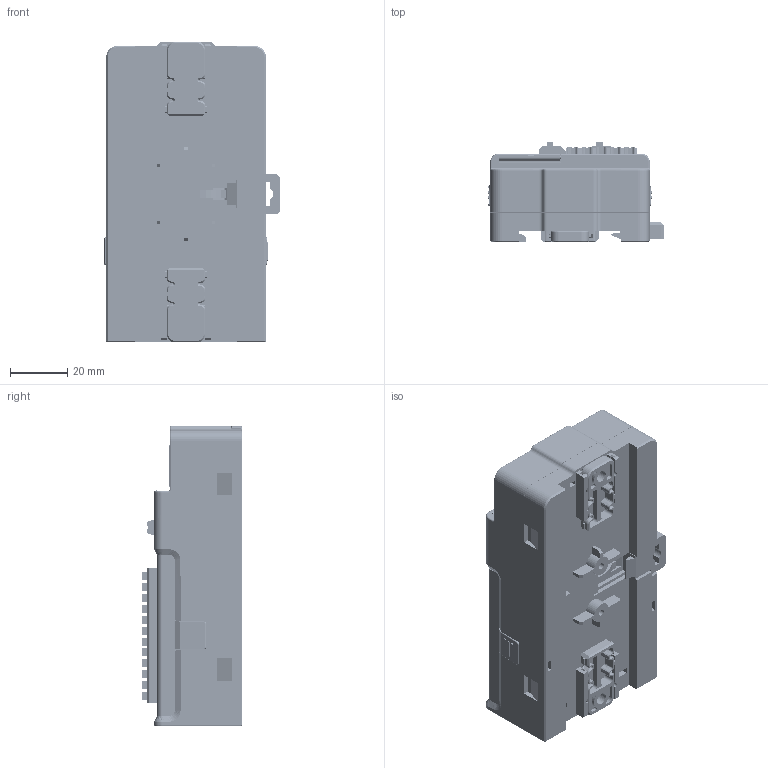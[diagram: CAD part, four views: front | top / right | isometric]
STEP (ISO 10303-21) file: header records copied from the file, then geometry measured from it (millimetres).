
FILE_DESCRIPTION(/* description */ (''),/* implementation_level */ '2;1');
FILE_NAME(/* name */ 'G2-FS-短款-欧式端子.stp',/* time_stamp */ '2022-12-03T11:39:38+08:00',/* author */ (''),/* organization */ (''),/* preprocessor_version */ 'ST-DEVELOPER v16',/* originating_system */ 'SIEMENS PLM Software NX 10.0',/* authorisation */ '');
FILE_SCHEMA (('AP203_CONFIGURATION_CONTROLLED_3D_DESIGN_OF_MECHANICAL_PARTS_AND_ASSEMBLIES_MIM_LF { 1 0 10303 403 2 1 2}'));
Products named in the file (1): 7349352C1CB7ak4j
Bounding box: 61.81 x 35.29 x 105.5 mm (x, y, z)
Volume: 151294 mm3; surface area: 85926.6 mm2
Topology: 74 solids, 161 shells, 11792 faces, 32109 edges, 20889 vertices
Faces by surface type: plane 8141, cylinder 2421, cone 509, bspline 475, torus 136, extrusion 84, sphere 22, revolution 4
Full cylindrical faces by diameter (mm): 0.6 x4, 0.76 x6, 0.8 x13, 0.9 x1, 0.92 x18, 1 x5, 1.1 x2, 1.2 x25, 1.24 x16, 1.26 x3, 1.36 x24, 1.5 x5, 1.64 x20, 1.7 x4, 2.35 x2, 3.2 x3, 3.3 x3, 4.2 x2, 6.05 x3, 6.15 x3
Entity records: 384040 total; most frequent: CARTESIAN_POINT 88585, ORIENTED_EDGE 63238, DIRECTION 58189, EDGE_CURVE 31619, VECTOR 23881, LINE 23797, VERTEX_POINT 20819, AXIS2_PLACEMENT_3D 17152
